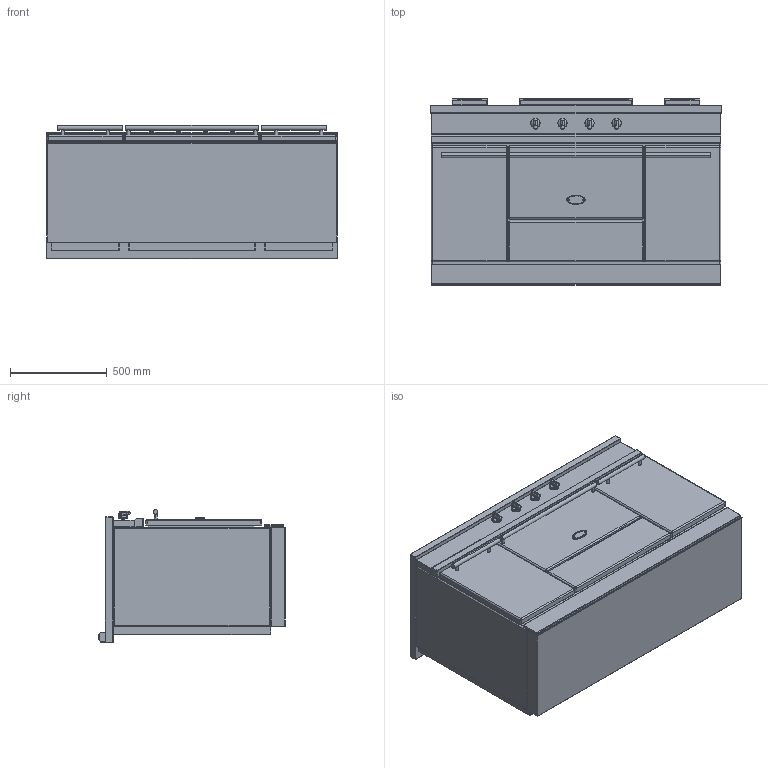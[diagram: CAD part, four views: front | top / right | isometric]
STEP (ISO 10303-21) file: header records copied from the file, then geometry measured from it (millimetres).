
FILE_DESCRIPTION((''),'2;1');
FILE_NAME('LMVI1531_ASM','2022-04-13T14:16:50',('stagiaire'),(''),'CREO PARAMETRIC BY PTC INC, 2021424','CREO PARAMETRIC BY PTC INC, 2021424','');
FILE_SCHEMA(('AP203_CONFIGURATION_CONTROLLED_3D_DESIGN_OF_MECHANICAL_PARTS_AND_ASSEMBLIES_MIM_LF { 1 0 10303 403 2 1 2 }'));
Products named in the file (13): BASE_EXPORT_FONTENAY_LMVI1531; 65049009; 65650001; 65064012; 19150009; 88064012_ASM; BASE_EXPORT_FONTENAY_LMVI1531_ASM; TABLE_1505_INDUCTION_ET_VTR; 65052012; CHEMINEE_2020_LG182_EXPORT_STEP; CHEMINEE_2020_LG582_EXPORT_STEP; TABLE_1505_INDUCTION_ASM; LMVI1531_ASM
Assembly tree (16 placements, depth 4):
  LMVI1531_ASM
    BASE_EXPORT_FONTENAY_LMVI1531_ASM
      BASE_EXPORT_FONTENAY_LMVI1531
      65049009
      65650001
      88064012_ASM  x4
        65064012
        19150009
    TABLE_1505_INDUCTION_ASM
      TABLE_1505_INDUCTION_ET_VTR
      65052012
      CHEMINEE_2020_LG182_EXPORT_STEP  x2
      CHEMINEE_2020_LG582_EXPORT_STEP
Bounding box: 1505 x 963 x 688.5 mm (x, y, z)
Volume: 553505107.8 mm3; surface area: 13209123.2 mm2
Topology: 20 solids, 20 shells, 2657 faces, 7747 edges, 4962 vertices
Faces by surface type: plane 1217, cylinder 1014, sphere 182, bspline 160, torus 60, cone 22, extrusion 2
Entity records: 85246 total; most frequent: CARTESIAN_POINT 21424, ORIENTED_EDGE 11420, DIRECTION 11228, EDGE_CURVE 5710, VECTOR 4282, LINE 4280, VERTEX_POINT 3665, AXIS2_PLACEMENT_3D 3455
